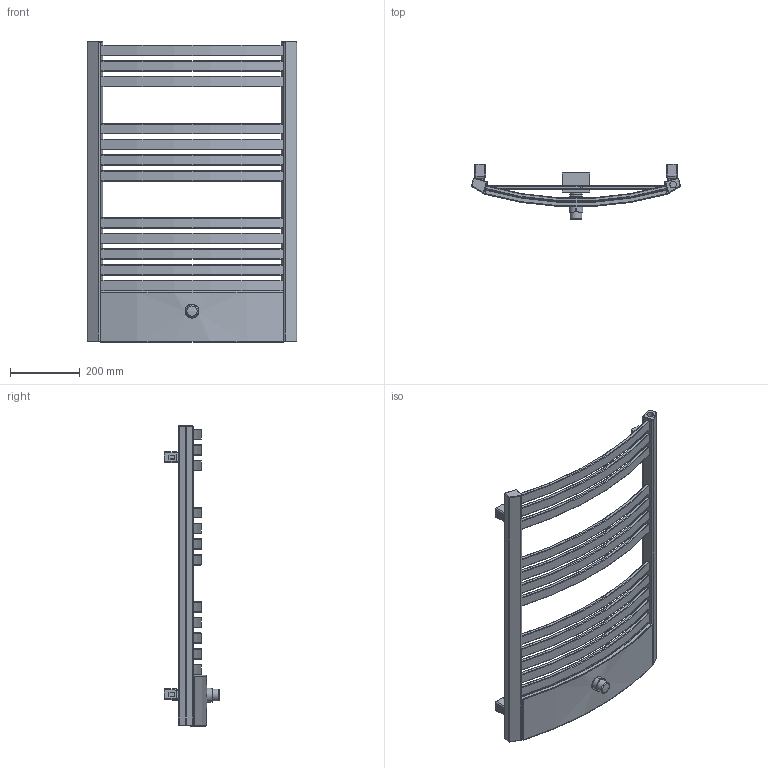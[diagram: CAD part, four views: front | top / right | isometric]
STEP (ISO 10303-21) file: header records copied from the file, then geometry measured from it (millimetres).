
FILE_DESCRIPTION((''),'2;1');
FILE_NAME('Z:\R\G\P\RGPH08 - Grzejnik Dexter pro\Work\Inventor\Dexter Pro v6.1\Marketing\STEP\DP-86-60-ZX.stp','2012-07-24T09:55:23',('PioRo'),(''),'Autodesk Inventor 2012','Autodesk Inventor 2012','');
FILE_SCHEMA(('AUTOMOTIVE_DESIGN { 1 0 10303 214 1 1 1 1 }'));
Length unit declared in the file: millimetre
Products named in the file (1): Część3
Bounding box: 599.89 x 158.22 x 862 mm (x, y, z)
Volume: 4484342.2 mm3; surface area: 1044952.9 mm2
Topology: 1 solids, 4 shells, 551 faces, 1420 edges, 898 vertices
Faces by surface type: plane 245, cylinder 180, torus 87, bspline 32, cone 5, sphere 2
Full cylindrical faces by diameter (mm): 7 x3, 18.631 x3, 32.4 x1, 33 x1, 34 x2, 35 x2, 36 x1, 36.4 x1, 36.6 x1, 37.2 x1, 40 x2
Entity records: 19168 total; most frequent: CARTESIAN_POINT 5421, ORIENTED_EDGE 2766, DIRECTION 2673, EDGE_CURVE 1383, AXIS2_PLACEMENT_3D 974, VERTEX_POINT 886, VECTOR 725, LINE 725
